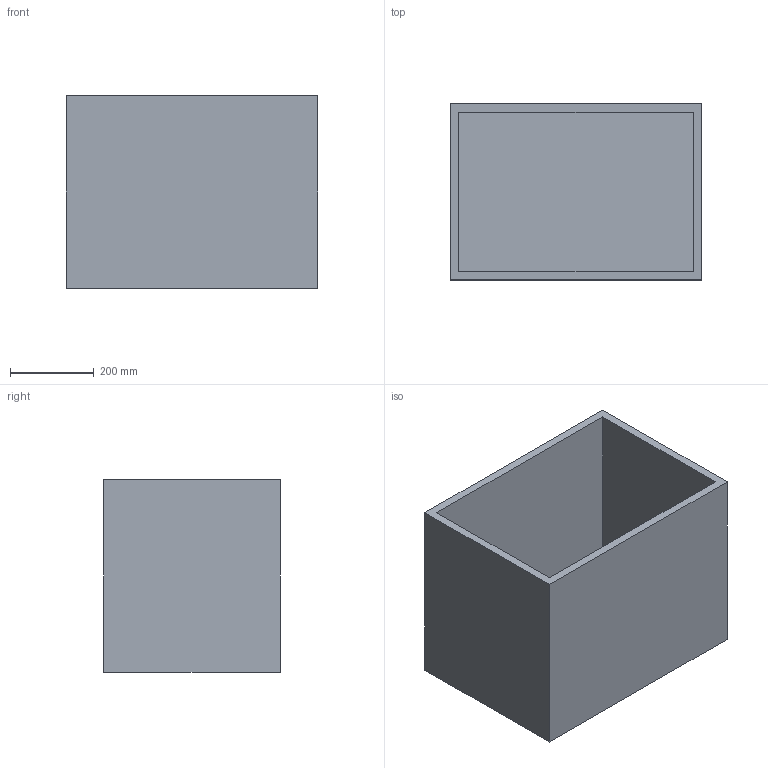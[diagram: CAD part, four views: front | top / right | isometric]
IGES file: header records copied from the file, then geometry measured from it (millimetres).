
Start section: SolidWorks IGES file using NURBS representation for surfaces
Global section: file name: G:\VICCARBE\PRODUCTOS\20-DO IT\04-MODELADOS (PLANOS)\SOLIDWORKS\Contenedores\IGES\VICCARBE_DO21.IGS; native system: SolidWorks 2009; preprocessor: SolidWorks 2009; author: RUBEN; date: 111102.121025; units: millimetre
Bounding box: 600 x 420 x 460 mm (x, y, z)
Surface area: 2269600 mm2 (no closed solid volume)
Topology: 0 solids, 0 shells, 11 faces, 48 edges, 48 vertices
Faces by surface type: bspline 11
